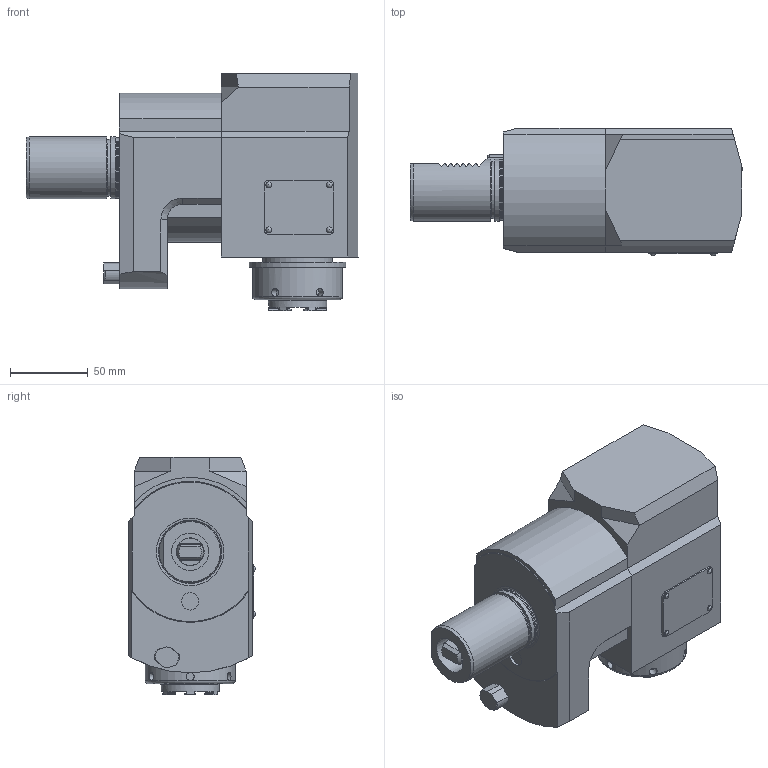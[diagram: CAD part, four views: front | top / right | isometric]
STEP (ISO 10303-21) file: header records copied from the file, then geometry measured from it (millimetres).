
FILE_DESCRIPTION(/* description */ (''),/* implementation_level */ '2;1');
FILE_NAME(/* name */ '180103',/* time_stamp */ '2018-09-13T08:51:41+02:00',/* author */ (''),/* organization */ (''),/* preprocessor_version */ 'ST-DEVELOPER v16.5',/* originating_system */ 'HiCAD 2017 2201.0 Build 268',/* authorisation */ '');
FILE_SCHEMA (('AUTOMOTIVE_DESIGN { 1 0 10303 214 1 1 1 1 }'));
Length unit declared in the file: millimetre
Products named in the file (10): Root; Leeres Teil; 002_000X; 112963_Spannmutter ER32 HI_QERAXC_340*; 113692_Kerbnagel 2x4_60; QUADER_0_40; ROTATIONSTEIL_1_120*
Assembly tree (9 placements, depth 4):
  Root
    Leeres Teil
      002_000X
        112963_Spannmutter ER32 HI_QERAXC_340*
      113692_Kerbnagel 2x4_60
      113692_Kerbnagel 2x4_60
      113692_Kerbnagel 2x4_60
      113692_Kerbnagel 2x4_60
      QUADER_0_40
      ROTATIONSTEIL_1_120*
Bounding box: 214 x 82.3 x 153.2 mm (x, y, z)
Volume: 1389391.2 mm3; surface area: 122661.1 mm2
Topology: 8 solids, 9 shells, 364 faces, 937 edges, 616 vertices
Faces by surface type: plane 208, cylinder 119, cone 24, torus 9, sphere 4
Full cylindrical faces by diameter (mm): 2 x4, 2.2 x4, 5.1 x6, 6 x2, 7.5 x1, 11.1 x1, 18 x1, 23.5 x1, 24 x2, 27 x2, 29.4 x1, 36.5 x1, 37.5 x1, 38 x1, 39.4 x1, 40 x4, 40.5 x1, 45 x1, 47 x1, 47.4 x1, 58 x1, 62 x1, 64.4 x1, 67.8 x1
Entity records: 17790 total; most frequent: CARTESIAN_POINT 9285, DIRECTION 1806, ORIENTED_EDGE 1672, EDGE_CURVE 836, AXIS2_PLACEMENT_3D 710, VERTEX_POINT 588, FACE_BOUND 472, EDGE_LOOP 469
